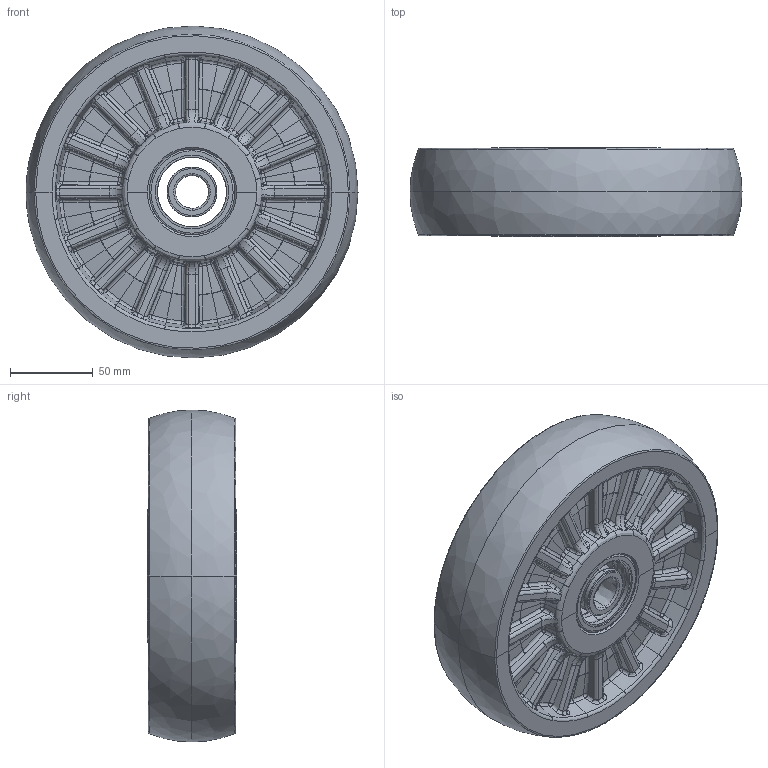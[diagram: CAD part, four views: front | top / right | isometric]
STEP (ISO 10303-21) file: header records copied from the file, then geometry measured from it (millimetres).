
FILE_DESCRIPTION (( 'STEP AP214' ), '1' );
FILE_NAME ('ME-200W.STEP', '2023-03-09T02:31:09', ( 'sakai' ), ( 'Hewlett-Packard' ), 'SwSTEP 2.0', 'SolidWorks 2010', '' );
FILE_SCHEMA (( 'AUTOMOTIVE_DESIGN' ));
Length unit declared in the file: millimetre
Products named in the file (3): ME-200W-10; ME-200W-11; ME-200W
Assembly tree (2 placements, depth 2):
  ME-200W
    ME-200W-11
    ME-200W-10
Bounding box: 201 x 54 x 200.98 mm (x, y, z)
Volume: 1242033.6 mm3; surface area: 138416.7 mm2
Topology: 5 solids, 5 shells, 1524 faces, 3612 edges, 1972 vertices
Faces by surface type: bspline 1400, plane 124
Entity records: 130619 total; most frequent: CARTESIAN_POINT 106755, ORIENTED_EDGE 6968, EDGE_CURVE 3484, B_SPLINE_CURVE_WITH_KNOTS 3292, VERTEX_POINT 1972, EDGE_LOOP 1536, ADVANCED_FACE 1524, FACE_OUTER_BOUND 1524
